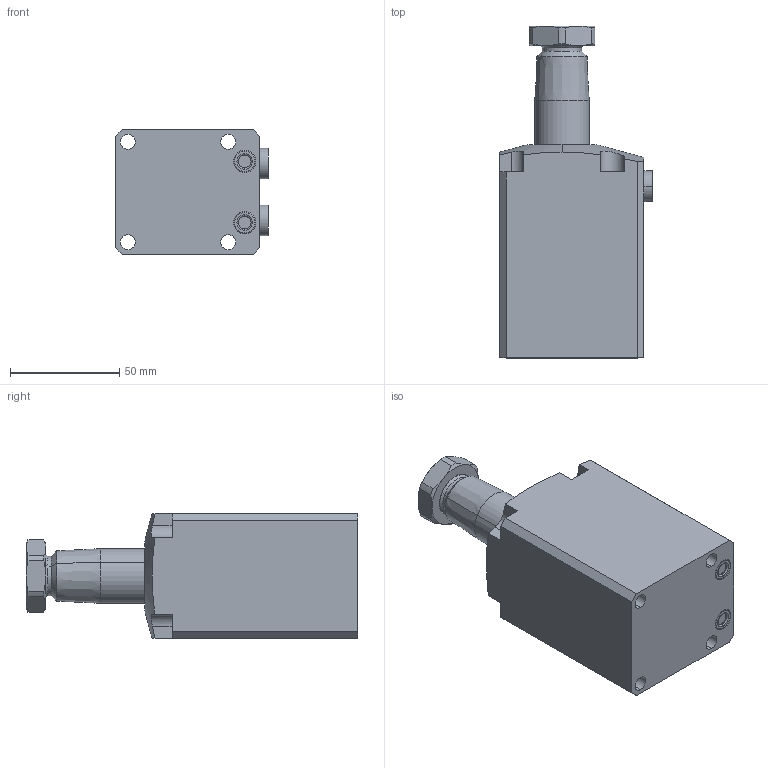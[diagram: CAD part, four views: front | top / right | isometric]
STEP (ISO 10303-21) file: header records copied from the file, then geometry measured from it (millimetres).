
FILE_DESCRIPTION(/* description */ (''),/* implementation_level */ '2;1');
FILE_NAME(/* name */ 'BRC06-RN30.stp',/* time_stamp */ '2025-01-05T09:21:57+08:00',/* author */ (''),/* organization */ (''),/* preprocessor_version */ 'ST-DEVELOPER v16.7',/* originating_system */ 'SIEMENS PLM Software NX 12.0',/* authorisation */ '');
FILE_SCHEMA (('AUTOMOTIVE_DESIGN { 1 0 10303 214 3 1 1 1 }'));
Length unit declared in the file: millimetre
Products named in the file (5): BRC06-RN30-03; BRC06-RN30-04; BRC06-RN30-02; BRC06-RN30-01; BRC06-RN30_stp
Assembly tree (5 placements, depth 2):
  BRC06-RN30_stp
    BRC06-RN30-01
    BRC06-RN30-02
    BRC06-RN30-04  x2
    BRC06-RN30-03
Bounding box: 69.8 x 151.8 x 57 mm (x, y, z)
Volume: 359483.1 mm3; surface area: 48364.1 mm2
Topology: 7 solids, 7 shells, 176 faces, 401 edges, 248 vertices
Faces by surface type: plane 68, cylinder 57, cone 34, torus 16, sphere 1
Full cylindrical faces by diameter (mm): 8.5 x2
Entity records: 4660 total; most frequent: CARTESIAN_POINT 957, DIRECTION 778, ORIENTED_EDGE 712, EDGE_CURVE 356, AXIS2_PLACEMENT_3D 313, VERTEX_POINT 222, EDGE_LOOP 180, ADVANCED_FACE 156
